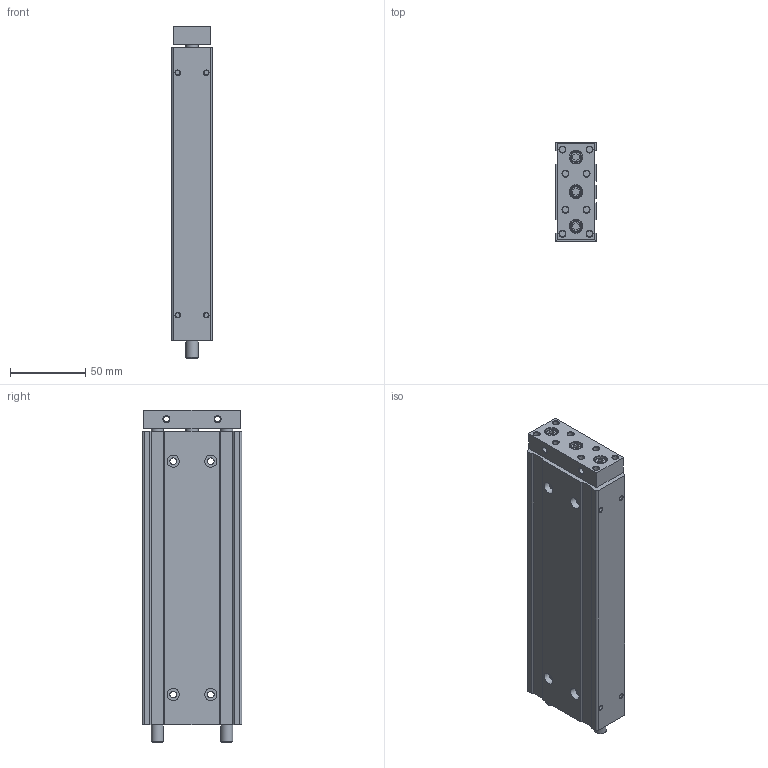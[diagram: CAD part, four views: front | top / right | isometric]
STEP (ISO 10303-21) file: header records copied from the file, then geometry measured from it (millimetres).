
FILE_DESCRIPTION((''),'2;1');
FILE_NAME('I:\3D電子目錄\氣缸\TB(U)\TB(U)16\TB(U)16\TB(U)16x150.stp','2007-08-06T08:10:30',('Administrator'),(''),'Autodesk Inventor 2008','Autodesk Inventor 2008','');
FILE_SCHEMA(('AUTOMOTIVE_DESIGN { 1 0 10303 214 1 1 1 1 }'));
Length unit declared in the file: millimetre
Products named in the file (1): TB(U)16X150
Bounding box: 27 x 66 x 220.5 mm (x, y, z)
Volume: 345637.4 mm3; surface area: 55731.8 mm2
Topology: 1 solids, 1 shells, 184 faces, 396 edges, 252 vertices
Faces by surface type: plane 84, cylinder 52, cone 37, bspline 8, torus 3
Full cylindrical faces by diameter (mm): 3 x4, 4 x10, 4.4 x4, 5 x6, 7.5 x3, 8 x13, 8.5 x3, 15 x2, 18 x1
Entity records: 4640 total; most frequent: CARTESIAN_POINT 815, DIRECTION 808, ORIENTED_EDGE 604, EDGE_LOOP 344, AXIS2_PLACEMENT_3D 329, EDGE_CURVE 302, VERTEX_POINT 248, FACE_OUTER_BOUND 184
